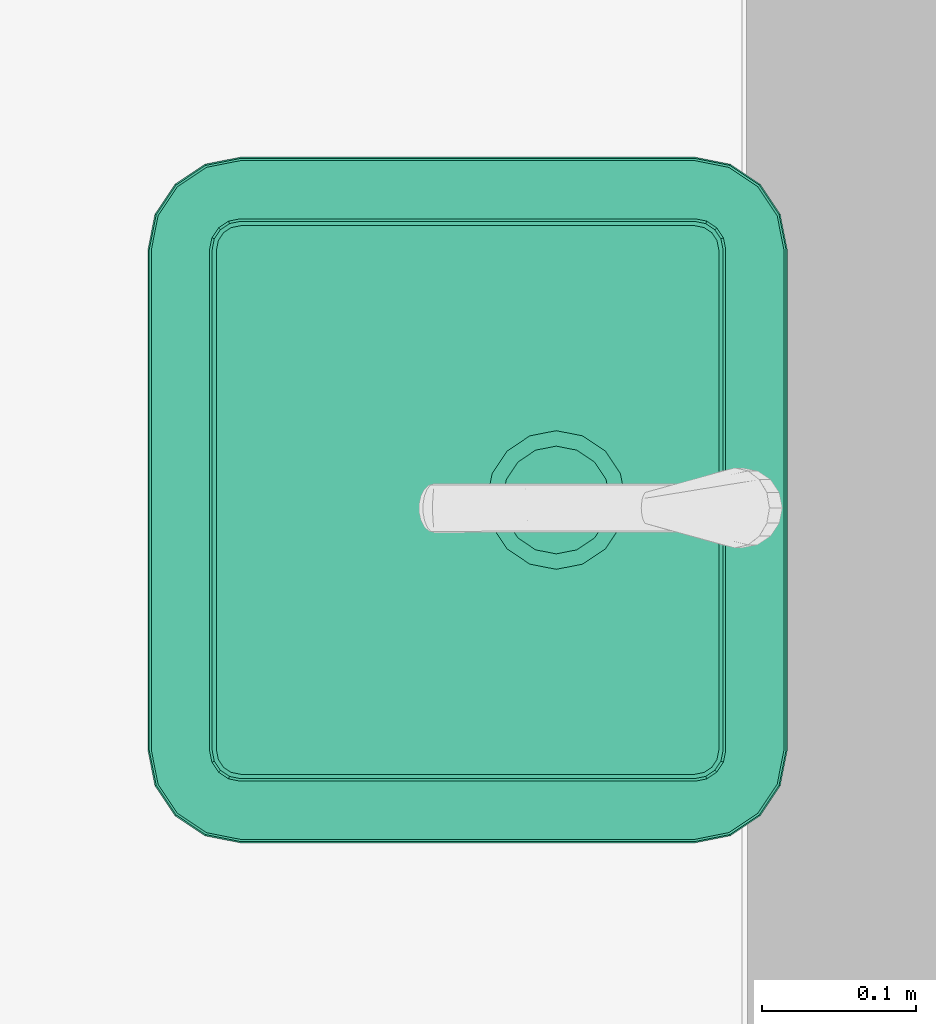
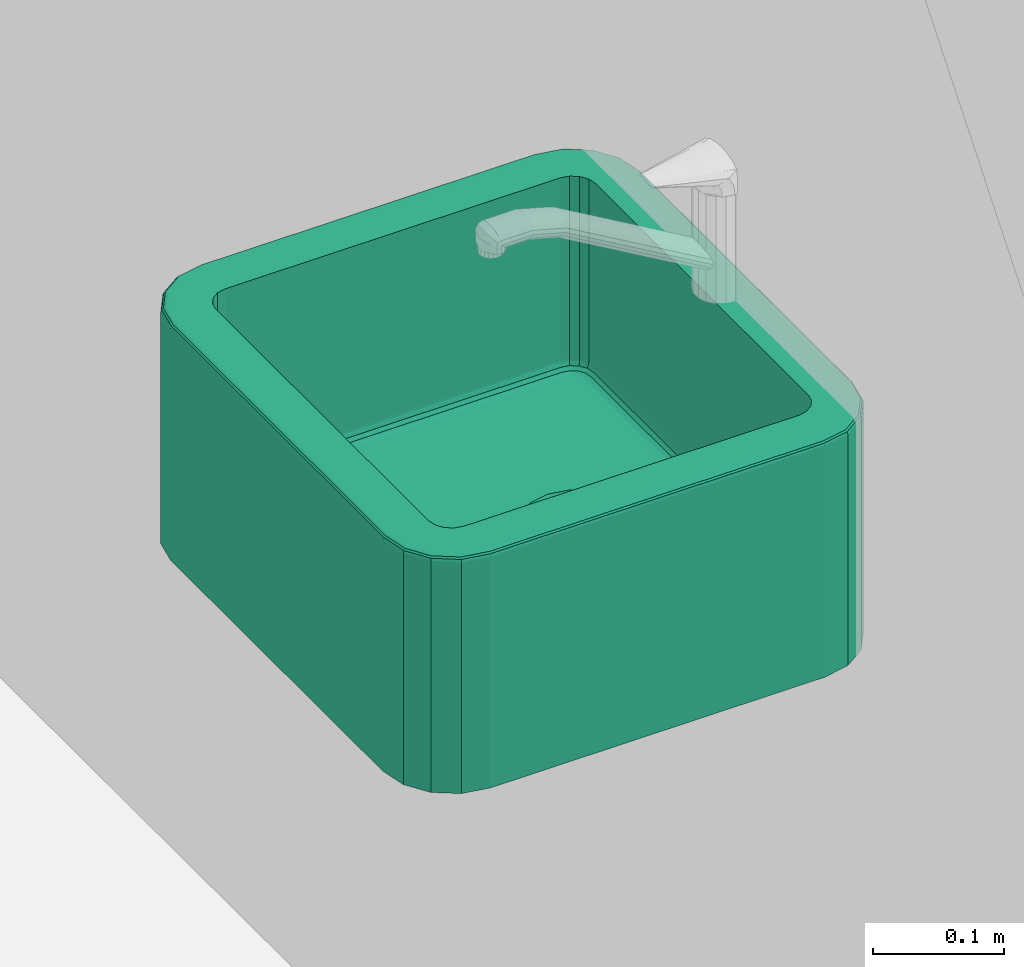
# One storey, part 83 of 127: 1 flow terminal.
"""IFC2X3 building model written with IfcOpenShell, lengths in millimetres."""

from ifc_helpers import new_model, entity, si_unit, converted_unit, derived_unit, money_unit, direction, frame, origin_with_axes, place, context, subcontext, project, spatial, faceted_brep, source, transform, mapped, type_object, element, save


model = new_model("IFC2X3")

# Units and contexts
model_context = context("Model", 3, precision=1e-05, world=origin_with_axes(), true_north=direction((0.0, 1.0)))
body_context = subcontext(model_context, "Body", "Model", "MODEL_VIEW")
ifc_project = project(units=[si_unit("LENGTHUNIT", "METRE", prefix="MILLI"), si_unit("AREAUNIT", "SQUARE_METRE"), si_unit("VOLUMEUNIT", "CUBIC_METRE"), converted_unit("PLANEANGLEUNIT", "DEGREE", entity("IfcPlaneAngleMeasure", 0.0174532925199), si_unit("PLANEANGLEUNIT", "RADIAN"), dimensions=[0, 0, 0, 0, 0, 0, 0]), si_unit("SOLIDANGLEUNIT", "STERADIAN"), money_unit("EUR"), converted_unit("TIMEUNIT", "Year", entity("IfcTimeMeasure", 31556926.0), si_unit("TIMEUNIT", "SECOND"), dimensions=[0, 0, 1, 0, 0, 0, 0]), si_unit("MASSUNIT", "GRAM", prefix="KILO"), si_unit("THERMODYNAMICTEMPERATUREUNIT", "DEGREE_CELSIUS"), si_unit("LUMINOUSINTENSITYUNIT", "LUMEN"), si_unit("ENERGYUNIT", "JOULE", prefix="MEGA"), derived_unit("THERMALCONDUCTANCEUNIT", [(si_unit("POWERUNIT", "WATT"), 1), (si_unit("LENGTHUNIT", "METRE"), -1), (si_unit("THERMODYNAMICTEMPERATUREUNIT", "KELVIN"), -1)]), derived_unit("SPECIFICHEATCAPACITYUNIT", [(si_unit("ENERGYUNIT", "JOULE"), 1), (si_unit("MASSUNIT", "GRAM", prefix="KILO"), -1), (si_unit("THERMODYNAMICTEMPERATUREUNIT", "KELVIN"), -1)]), derived_unit("MASSDENSITYUNIT", [(si_unit("MASSUNIT", "GRAM", prefix="KILO"), 1), (si_unit("VOLUMEUNIT", "CUBIC_METRE"), -1)])], contexts=[model_context])

# Site, building, storey
site_placement = place(None, origin_with_axes())
site = spatial("IfcSite", under=ifc_project, at=site_placement, Name="Site", CompositionType="ELEMENT")
building_placement = place(site_placement, origin_with_axes())
building = spatial("IfcBuilding", under=site, at=building_placement, Name="Building", CompositionType="ELEMENT")
storey_placement = place(building_placement, origin_with_axes())
storey = spatial("IfcBuildingStorey", under=building, at=storey_placement, Name="1 KORRUS", CompositionType="ELEMENT", Elevation=0.0)

# Flow terminal
sanitary_terminal_type = type_object("IfcSanitaryTerminalType", Name="Sink Belfast 22", PredefinedType="NOTDEFINED")
shared_shape = source(origin_with_axes(), body_context, "Body", "Brep", [
    faceted_brep([(21.1783900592, 393.821609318, 899.999999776), (9.27712238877, 376.010103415, 899.999999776), (4.99999698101, 354.50754327, 899.999999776), (4.99999698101, 60.4924569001, 899.999999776), (9.27712239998, 38.9898958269, 899.999999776), (21.1783900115, 21.1783900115, 899.999999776), (38.9898958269, 9.27712239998, 899.999999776), (60.4924569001, 4.99999698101, 899.999999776), (384.507543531, 4.99999698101, 899.999999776), (406.010103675, 9.27712238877, 899.999999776), (423.821609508, 21.1783900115, 899.999999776), (435.722877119, 38.9898958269, 899.999999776), (440.000002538, 60.4924569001, 899.999999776), (440.000002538, 354.50754327, 899.999999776), (435.72287713, 376.010103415, 899.999999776), (423.82160946, 393.821609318, 899.999999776), (406.010103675, 405.722877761, 899.999999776), (384.507543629, 410.000002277, 899.999999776), (222.499999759, 410.000002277, 899.999999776), (60.4924568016, 410.000002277, 899.999999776), (38.9898958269, 405.72287775, 899.999999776), (399.142135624, 369.142135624, 900.0), (403.47759065, 362.653668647, 900.0), (405.0, 355.0, 900.0), (405.0, 60.0, 900.0), (403.47759065, 52.3463313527, 900.0), (399.142135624, 45.8578643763, 900.0), (392.653668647, 41.5224093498, 900.0), (385.0, 40.0, 900.0), (60.0, 40.0, 900.0), (52.3463313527, 41.5224093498, 900.0), (45.8578643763, 45.8578643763, 900.0), (41.5224093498, 52.3463313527, 900.0), (40.0, 60.0, 900.0), (40.0, 355.0, 900.0), (41.5224093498, 362.653668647, 900.0), (45.8578643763, 369.142135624, 900.0), (52.3463313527, 373.47759065, 900.0), (60.0, 375.0, 900.0), (222.5, 375.0, 900.0), (385.0, 375.0, 900.0), (392.653668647, 373.47759065, 900.0), (20.4751302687, 394.524869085, 899.903926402), (8.3582692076, 376.390704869, 899.903926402), (4.02454764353, 354.60361665, 899.903926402), (4.02454764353, 60.396383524, 899.903926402), (8.35826921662, 38.6092943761, 899.903926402), (20.4751302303, 20.4751302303, 899.903926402), (38.6092943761, 8.35826921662, 899.903926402), (60.396383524, 4.02454764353, 899.903926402), (384.603616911, 4.02454764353, 899.903926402), (406.390705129, 8.3582692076, 899.903926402), (424.524869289, 20.4751302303, 899.903926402), (436.641730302, 38.6092943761, 899.903926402), (440.975451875, 60.396383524, 899.903926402), (440.975451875, 354.60361665, 899.903926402), (436.641730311, 376.390704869, 899.903926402), (424.52486925, 394.524869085, 899.903926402), (406.390705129, 406.64173095, 899.903926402), (384.60361699, 410.975451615, 899.903926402), (222.499999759, 410.975451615, 899.903926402), (60.3963834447, 410.975451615, 899.903926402), (38.6092943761, 406.641730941, 899.903926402), (399.142135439, 369.142135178, 730.0), (403.477591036, 362.653668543, 730.0), (404.999999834, 355.00000002, 730.0), (404.999999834, 60.0000000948, 730.0), (403.477591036, 52.3463315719, 730.0), (399.142135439, 45.8578640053, 730.0), (392.653668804, 41.5224093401, 730.0), (385.000000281, 39.9999996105, 730.0), (60.0000000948, 39.9999996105, 730.0), (52.3463315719, 41.5224093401, 730.0), (45.8578640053, 45.8578640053, 730.0), (41.5224093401, 52.3463315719, 730.0), (39.9999996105, 60.0000000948, 730.0), (39.9999996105, 355.00000002, 730.0), (41.5224093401, 362.653668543, 730.0), (45.8578640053, 369.142135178, 730.0), (52.3463315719, 373.477590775, 730.0), (60.0000000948, 374.999999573, 730.0), (222.499999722, 374.999999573, 730.0), (385.000000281, 374.999999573, 730.0), (392.653668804, 373.477590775, 730.0), (19.175673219, 395.824326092, 899.157348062), (6.66044678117, 377.093965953, 899.157348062), (2.22214896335, 354.781137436, 899.157348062), (2.22214896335, 60.2188627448, 899.157348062), (6.66044678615, 37.9060332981, 899.157348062), (19.1756731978, 19.1756731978, 899.157348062), (37.9060332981, 6.66044678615, 899.157348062), (60.2188627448, 2.22214896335, 899.157348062), (384.781137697, 2.22214896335, 899.157348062), (407.093966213, 6.66044678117, 899.157348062), (425.824326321, 19.1756731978, 899.157348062), (438.339552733, 37.9060332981, 899.157348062), (442.777850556, 60.2188627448, 899.157348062), (442.777850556, 354.781137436, 899.157348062), (438.339552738, 377.093965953, 899.157348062), (425.8243263, 395.824326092, 899.157348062), (407.093966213, 408.339553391, 899.157348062), (384.781137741, 412.777850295, 899.157348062), (222.499999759, 412.777850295, 899.157348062), (60.2188627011, 412.777850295, 899.157348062), (37.9060332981, 408.339553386, 899.157348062), (399.003605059, 369.003604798, 728.04909678), (403.296592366, 362.578696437, 728.04909678), (404.807852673, 354.981075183, 728.04909678), (404.807852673, 60.0189249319, 728.04909678), (403.296592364, 52.4213036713, 728.04909678), (399.003605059, 45.9963943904, 728.04909678), (392.578696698, 41.7034080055, 728.04909678), (384.981075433, 40.1921467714, 728.04909678), (60.0189249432, 40.1921467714, 728.04909678), (52.4213036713, 41.7034080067, 728.04909678), (45.9963943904, 45.9963943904, 728.04909678), (41.7034080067, 52.4213036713, 728.04909678), (40.1921467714, 60.0189249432, 728.04909678), (40.1921467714, 354.981075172, 728.04909678), (41.7034080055, 362.578696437, 728.04909678), (45.9963943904, 369.003604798, 728.04909678), (52.4213036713, 373.296592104, 728.04909678), (60.0189249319, 374.807852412, 728.04909678), (222.499999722, 374.807852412, 728.04909678), (384.981075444, 374.807852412, 728.04909678), (392.578696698, 373.296592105, 728.04909678), (18.1811110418, 396.818888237, 897.777851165), (5.36098869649, 377.632219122, 897.777851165), (0.842651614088, 354.917006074, 897.777851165), (0.842651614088, 60.0829941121, 897.777851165), (5.36098869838, 37.3677801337, 897.777851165), (18.1811110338, 18.1811110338, 897.777851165), (37.3677801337, 5.36098869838, 897.777851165), (60.0829941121, 0.842651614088, 897.777851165), (384.917006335, 0.842651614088, 897.777851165), (407.632219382, 5.36098869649, 897.777851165), (426.818888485, 18.1811110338, 897.777851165), (439.639010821, 37.3677801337, 897.777851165), (444.157347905, 60.0829941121, 897.777851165), (444.157347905, 354.917006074, 897.777851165), (439.639010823, 377.632219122, 897.777851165), (426.818888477, 396.818888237, 897.777851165), (407.632219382, 409.639011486, 897.777851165), (384.917006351, 414.157347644, 897.777851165), (222.499999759, 414.157347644, 897.777851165), (60.0829940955, 414.157347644, 897.777851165), (37.3677801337, 409.639011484, 897.777851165), (397.927098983, 367.927098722, 724.44429767), (401.890069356, 361.996095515, 724.44429767), (403.314695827, 354.83401212, 724.44429767), (403.314695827, 60.1659879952, 724.44429767), (401.890069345, 53.0039045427, 724.44429767), (397.927098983, 47.0729005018, 724.44429767), (391.996095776, 43.1099309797, 724.44429767), (384.834012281, 41.6853036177, 724.44429767), (60.1659880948, 41.6853036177, 724.44429767), (53.0039045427, 43.1099309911, 724.44429767), (47.0729005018, 47.0729005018, 724.44429767), (43.1099309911, 53.0039045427, 724.44429767), (41.6853036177, 60.1659880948, 724.44429767), (41.6853036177, 354.83401202, 724.44429767), (43.1099309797, 361.996095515, 724.44429767), (47.0729005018, 367.927098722, 724.44429767), (53.0039045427, 371.890069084, 724.44429767), (60.1659879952, 373.314695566, 724.44429767), (222.499999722, 373.314695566, 724.44429767), (384.834012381, 373.314695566, 724.44429767), (391.996095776, 371.890069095, 724.44429767), (17.6428579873, 397.357141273, 895.97545161), (4.65772720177, 377.923519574, 895.97545161), (0.0960731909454, 354.990537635, 895.97545161), (0.0960731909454, 60.009462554, 895.97545161), (4.65772720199, 37.0764796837, 895.97545161), (17.6428579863, 17.6428579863, 895.97545161), (37.0764796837, 4.65772720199, 895.97545161), (60.009462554, 0.0960731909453, 895.97545161), (384.990537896, 0.0960731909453, 895.97545161), (407.923519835, 4.65772720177, 895.97545161), (427.357141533, 17.6428579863, 895.97545161), (440.342272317, 37.0764796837, 895.97545161), (444.903926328, 60.009462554, 895.97545161), (444.903926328, 354.990537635, 895.97545161), (440.342272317, 377.923519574, 895.97545161), (427.357141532, 397.357141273, 895.97545161), (407.923519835, 410.342272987, 895.97545161), (384.990537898, 414.903926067, 895.97545161), (222.499999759, 414.903926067, 895.97545161), (60.0094625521, 414.903926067, 895.97545161), (37.0764796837, 410.342272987, 895.97545161), (395.937975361, 365.9379751, 721.685303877), (399.291154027, 360.91958951, 721.685303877), (400.55570206, 354.562275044, 721.685303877), (400.55570206, 60.437725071, 721.685303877), (399.291153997, 54.0804104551, 721.685303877), (395.937975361, 49.062024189, 721.685303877), (390.919589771, 45.7088462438, 721.685303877), (384.562275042, 44.4442973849, 721.685303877), (60.4377253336, 44.4442973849, 721.685303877), (54.0804104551, 45.7088462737, 721.685303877), (49.062024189, 49.062024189, 721.685303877), (45.7088462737, 54.0804104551, 721.685303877), (44.4442973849, 60.4377253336, 721.685303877), (44.4442973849, 354.562274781, 721.685303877), (45.7088462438, 360.91958951, 721.685303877), (49.062024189, 365.9379751, 721.685303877), (54.0804104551, 369.291153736, 721.685303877), (60.437725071, 370.555701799, 721.685303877), (222.499999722, 370.555701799, 721.685303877), (384.562275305, 370.555701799, 721.685303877), (390.919589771, 369.291153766, 721.685303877), (17.5735927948, 397.426406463, 895.0), (4.56722786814, 377.961005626, 895.0), (-3.89516363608e-07, 355.000000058, 895.0), (-3.89516363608e-07, 60.000000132, 895.0), (4.56722786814, 37.0389936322, 895.0), (17.5735927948, 17.5735927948, 895.0), (37.0389936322, 4.56722786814, 895.0), (60.000000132, -3.89516419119e-07, 895.0), (385.000000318, -3.89516419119e-07, 895.0), (407.961005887, 4.56722786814, 895.0), (427.426406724, 17.5735927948, 895.0), (440.432771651, 37.0389936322, 895.0), (444.999999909, 60.000000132, 895.0), (444.999999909, 355.000000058, 895.0), (440.432771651, 377.961005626, 895.0), (427.426406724, 397.426406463, 895.0), (407.961005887, 410.432772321, 895.0), (385.000000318, 414.999999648, 895.0), (222.499999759, 414.999999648, 895.0), (60.000000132, 414.999999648, 895.0), (37.0389936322, 410.432772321, 895.0), (393.339059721, 363.33905946, 720.192147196), (395.895507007, 359.513066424, 720.192147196), (396.950902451, 354.207233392, 720.192147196), (396.950902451, 60.7927667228, 720.192147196), (395.895506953, 55.4869334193, 720.192147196), (393.339059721, 51.6609399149, 720.192147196), (389.513066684, 49.104493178, 720.192147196), (384.207233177, 48.0490969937, 720.192147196), (60.7927671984, 48.0490969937, 720.192147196), (55.4869334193, 49.1044932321, 720.192147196), (51.6609399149, 51.6609399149, 720.192147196), (49.1044932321, 55.4869334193, 720.192147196), (48.0490969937, 60.7927671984, 720.192147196), (48.0490969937, 354.207232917, 720.192147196), (49.104493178, 359.513066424, 720.192147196), (51.6609399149, 363.33905946, 720.192147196), (55.4869334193, 365.895506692, 720.192147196), (60.7927667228, 366.95090219, 720.192147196), (222.499999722, 366.95090219, 720.192147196), (384.207233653, 366.95090219, 720.192147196), (389.513066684, 365.895506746, 720.192147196), (17.5735931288, 397.426406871, 680.0), (4.56722804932, 377.961005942, 680.0), (0.0, 355.0, 680.0), (0.0, 60.0, 680.0), (4.56722804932, 37.0389940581, 680.0), (17.5735931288, 17.5735931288, 680.0), (37.0389940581, 4.56722804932, 680.0), (60.0, 0.0, 680.0), (385.0, 0.0, 680.0), (407.961005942, 4.56722804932, 680.0), (427.426406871, 17.5735931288, 680.0), (440.432771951, 37.0389940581, 680.0), (445.0, 60.0, 680.0), (445.0, 355.0, 680.0), (440.432771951, 377.961005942, 680.0), (427.426406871, 397.426406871, 680.0), (407.961005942, 410.432771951, 680.0), (385.0, 415.0, 680.0), (222.5, 415.0, 680.0), (60.0, 415.0, 680.0), (37.0389940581, 410.432771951, 680.0), (391.932540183, 361.932539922, 720.000000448), (394.057800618, 358.751863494, 720.000000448), (395.000003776, 354.015086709, 720.000000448), (395.000003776, 60.9849134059, 720.000000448), (394.057800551, 56.2481362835, 720.000000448), (391.932540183, 53.0674594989, 720.000000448), (388.751863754, 50.9421995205, 720.000000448), (384.015086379, 49.9999956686, 720.000000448), (60.9849139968, 49.9999956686, 720.000000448), (56.2481362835, 50.9421995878, 720.000000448), (53.0674594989, 53.0674594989, 720.000000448), (50.9421995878, 56.2481362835, 720.000000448), (49.9999956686, 60.9849139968, 720.000000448), (49.9999956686, 354.015086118, 720.000000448), (50.9421995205, 358.751863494, 720.000000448), (53.0674594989, 361.932539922, 720.000000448), (56.2481362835, 364.05780029, 720.000000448), (60.9849134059, 365.000003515, 720.000000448), (222.499999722, 365.000003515, 720.000000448), (384.01508697, 365.000003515, 720.000000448), (388.751863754, 364.057800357, 720.000000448), (267.5, 265.0, 720.0), (264.074578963, 247.779245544, 720.0), (254.319805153, 233.180194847, 720.0), (239.720754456, 223.425421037, 720.0), (222.5, 220.0, 720.0), (205.279245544, 223.425421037, 720.0), (190.680194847, 233.180194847, 720.0), (180.925421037, 247.779245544, 720.0), (177.5, 265.0, 720.0), (180.925421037, 282.220754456, 720.0), (190.680194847, 296.819805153, 720.0), (205.279245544, 306.574578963, 720.0), (222.5, 310.0, 720.0), (239.720754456, 306.574578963, 720.0), (254.319805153, 296.819805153, 720.0), (264.074578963, 282.220754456, 720.0), (257.5, 265.0, 710.0), (254.835783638, 251.606079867, 710.0), (247.248737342, 240.251262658, 710.0), (235.893920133, 232.664216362, 710.0), (222.5, 230.0, 710.0), (209.106079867, 232.664216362, 710.0), (197.751262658, 240.251262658, 710.0), (190.164216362, 251.606079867, 710.0), (187.5, 265.0, 710.0), (190.164216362, 278.393920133, 710.0), (197.751262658, 289.748737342, 710.0), (209.106079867, 297.335783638, 710.0), (222.5, 300.0, 710.0), (235.893920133, 297.335783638, 710.0), (247.248737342, 289.748737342, 710.0), (254.835783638, 278.393920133, 710.0)], [[[0, 1, 2, 3, 4, 5, 6, 7, 8, 9, 10, 11, 12, 13, 14, 15, 16, 17, 18, 19, 20], [21, 22, 23, 24, 25, 26, 27, 28, 29, 30, 31, 32, 33, 34, 35, 36, 37, 38, 39, 40, 41]], [[0, 42, 43, 1]], [[1, 43, 44, 2]], [[2, 44, 45, 3]], [[3, 45, 46, 4]], [[4, 46, 47, 5]], [[5, 47, 48, 6]], [[6, 48, 49, 7]], [[7, 49, 50, 8]], [[8, 50, 51, 9]], [[9, 51, 52, 10]], [[10, 52, 53, 11]], [[11, 53, 54, 12]], [[12, 54, 55, 13]], [[13, 55, 56, 14]], [[14, 56, 57, 15]], [[15, 57, 58, 16]], [[16, 58, 59, 17]], [[17, 59, 60, 18]], [[18, 60, 61, 19]], [[19, 61, 62, 20]], [[20, 62, 42, 0]], [[22, 21, 63, 64]], [[23, 22, 64, 65]], [[24, 23, 65, 66]], [[25, 24, 66, 67]], [[26, 25, 67, 68]], [[27, 26, 68, 69]], [[28, 27, 69, 70]], [[29, 28, 70, 71]], [[30, 29, 71, 72]], [[31, 30, 72, 73]], [[32, 31, 73, 74]], [[33, 32, 74, 75]], [[34, 33, 75, 76]], [[35, 34, 76, 77]], [[36, 35, 77, 78]], [[37, 36, 78, 79]], [[38, 37, 79, 80]], [[39, 38, 80, 81]], [[40, 39, 81, 82]], [[41, 40, 82, 83]], [[21, 41, 83, 63]], [[42, 84, 85, 43]], [[43, 85, 86, 44]], [[44, 86, 87, 45]], [[45, 87, 88, 46]], [[46, 88, 89, 47]], [[47, 89, 90, 48]], [[48, 90, 91, 49]], [[49, 91, 92, 50]], [[50, 92, 93, 51]], [[51, 93, 94, 52]], [[52, 94, 95, 53]], [[53, 95, 96, 54]], [[54, 96, 97, 55]], [[55, 97, 98, 56]], [[56, 98, 99, 57]], [[57, 99, 100, 58]], [[58, 100, 101, 59]], [[59, 101, 102, 60]], [[60, 102, 103, 61]], [[61, 103, 104, 62]], [[62, 104, 84, 42]], [[64, 63, 105, 106]], [[65, 64, 106, 107]], [[66, 65, 107, 108]], [[67, 66, 108, 109]], [[68, 67, 109, 110]], [[69, 68, 110, 111]], [[70, 69, 111, 112]], [[71, 70, 112, 113]], [[72, 71, 113, 114]], [[73, 72, 114, 115]], [[74, 73, 115, 116]], [[75, 74, 116, 117]], [[76, 75, 117, 118]], [[77, 76, 118, 119]], [[78, 77, 119, 120]], [[79, 78, 120, 121]], [[80, 79, 121, 122]], [[81, 80, 122, 123]], [[82, 81, 123, 124]], [[83, 82, 124, 125]], [[63, 83, 125, 105]], [[84, 126, 127, 85]], [[85, 127, 128, 86]], [[86, 128, 129, 87]], [[87, 129, 130, 88]], [[88, 130, 131, 89]], [[89, 131, 132, 90]], [[90, 132, 133, 91]], [[91, 133, 134, 92]], [[92, 134, 135, 93]], [[93, 135, 136, 94]], [[94, 136, 137, 95]], [[95, 137, 138, 96]], [[96, 138, 139, 97]], [[97, 139, 140, 98]], [[98, 140, 141, 99]], [[99, 141, 142, 100]], [[100, 142, 143, 101]], [[101, 143, 144, 102]], [[102, 144, 145, 103]], [[103, 145, 146, 104]], [[104, 146, 126, 84]], [[106, 105, 147, 148]], [[107, 106, 148, 149]], [[108, 107, 149, 150]], [[109, 108, 150, 151]], [[110, 109, 151, 152]], [[111, 110, 152, 153]], [[112, 111, 153, 154]], [[113, 112, 154, 155]], [[114, 113, 155, 156]], [[115, 114, 156, 157]], [[116, 115, 157, 158]], [[117, 116, 158, 159]], [[118, 117, 159, 160]], [[119, 118, 160, 161]], [[120, 119, 161, 162]], [[121, 120, 162, 163]], [[122, 121, 163, 164]], [[123, 122, 164, 165]], [[124, 123, 165, 166]], [[125, 124, 166, 167]], [[105, 125, 167, 147]], [[126, 168, 169, 127]], [[127, 169, 170, 128]], [[128, 170, 171, 129]], [[129, 171, 172, 130]], [[130, 172, 173, 131]], [[131, 173, 174, 132]], [[132, 174, 175, 133]], [[133, 175, 176, 134]], [[134, 176, 177, 135]], [[135, 177, 178, 136]], [[136, 178, 179, 137]], [[137, 179, 180, 138]], [[138, 180, 181, 139]], [[139, 181, 182, 140]], [[140, 182, 183, 141]], [[141, 183, 184, 142]], [[142, 184, 185, 143]], [[143, 185, 186, 144]], [[144, 186, 187, 145]], [[145, 187, 188, 146]], [[146, 188, 168, 126]], [[148, 147, 189, 190]], [[149, 148, 190, 191]], [[150, 149, 191, 192]], [[151, 150, 192, 193]], [[152, 151, 193, 194]], [[153, 152, 194, 195]], [[154, 153, 195, 196]], [[155, 154, 196, 197]], [[156, 155, 197, 198]], [[157, 156, 198, 199]], [[158, 157, 199, 200]], [[159, 158, 200, 201]], [[160, 159, 201, 202]], [[161, 160, 202, 203]], [[162, 161, 203, 204]], [[163, 162, 204, 205]], [[164, 163, 205, 206]], [[165, 164, 206, 207]], [[166, 165, 207, 208]], [[167, 166, 208, 209]], [[147, 167, 209, 189]], [[168, 210, 211, 169]], [[169, 211, 212, 170]], [[170, 212, 213, 171]], [[171, 213, 214, 172]], [[172, 214, 215, 173]], [[173, 215, 216, 174]], [[174, 216, 217, 175]], [[175, 217, 218, 176]], [[176, 218, 219, 177]], [[177, 219, 220, 178]], [[178, 220, 221, 179]], [[179, 221, 222, 180]], [[180, 222, 223, 181]], [[181, 223, 224, 182]], [[182, 224, 225, 183]], [[183, 225, 226, 184]], [[184, 226, 227, 185]], [[185, 227, 228, 186]], [[186, 228, 229, 187]], [[187, 229, 230, 188]], [[188, 230, 210, 168]], [[190, 189, 231, 232]], [[191, 190, 232, 233]], [[192, 191, 233, 234]], [[193, 192, 234, 235]], [[194, 193, 235, 236]], [[195, 194, 236, 237]], [[196, 195, 237, 238]], [[197, 196, 238, 239]], [[198, 197, 239, 240]], [[199, 198, 240, 241]], [[200, 199, 241, 242]], [[201, 200, 242, 243]], [[202, 201, 243, 244]], [[203, 202, 244, 245]], [[204, 203, 245, 246]], [[205, 204, 246, 247]], [[206, 205, 247, 248]], [[207, 206, 248, 249]], [[208, 207, 249, 250]], [[209, 208, 250, 251]], [[189, 209, 251, 231]], [[210, 252, 253, 211]], [[211, 253, 254, 212]], [[212, 254, 255, 213]], [[213, 255, 256, 214]], [[214, 256, 257, 215]], [[215, 257, 258, 216]], [[216, 258, 259, 217]], [[217, 259, 260, 218]], [[218, 260, 261, 219]], [[219, 261, 262, 220]], [[220, 262, 263, 221]], [[221, 263, 264, 222]], [[222, 264, 265, 223]], [[223, 265, 266, 224]], [[224, 266, 267, 225]], [[225, 267, 268, 226]], [[226, 268, 269, 227]], [[227, 269, 270, 228]], [[228, 270, 271, 229]], [[229, 271, 272, 230]], [[230, 272, 252, 210]], [[232, 231, 273, 274]], [[233, 232, 274, 275]], [[234, 233, 275, 276]], [[235, 234, 276, 277]], [[236, 235, 277, 278]], [[237, 236, 278, 279]], [[238, 237, 279, 280]], [[239, 238, 280, 281]], [[240, 239, 281, 282]], [[241, 240, 282, 283]], [[242, 241, 283, 284]], [[243, 242, 284, 285]], [[244, 243, 285, 286]], [[245, 244, 286, 287]], [[246, 245, 287, 288]], [[247, 246, 288, 289]], [[248, 247, 289, 290]], [[249, 248, 290, 291]], [[250, 249, 291, 292]], [[251, 250, 292, 293]], [[231, 251, 293, 273]], [[257, 256, 255, 254, 253, 252, 272, 271, 270, 269, 268, 267, 266, 265, 264, 263, 262, 261, 260, 259, 258]], [[287, 286, 285, 284, 283, 282, 281, 280, 279, 278, 277, 276, 275, 274, 273, 293, 292, 291, 290, 289, 288], [294, 295, 296, 297, 298, 299, 300, 301, 302, 303, 304, 305, 306, 307, 308, 309]], [[295, 294, 310, 311]], [[296, 295, 311, 312]], [[297, 296, 312, 313]], [[298, 297, 313, 314]], [[299, 298, 314, 315]], [[300, 299, 315, 316]], [[301, 300, 316, 317]], [[302, 301, 317, 318]], [[303, 302, 318, 319]], [[304, 303, 319, 320]], [[305, 304, 320, 321]], [[306, 305, 321, 322]], [[307, 306, 322, 323]], [[308, 307, 323, 324]], [[309, 308, 324, 325]], [[294, 309, 325, 310]], [[321, 320, 319, 318, 317, 316, 315, 314, 313, 312, 311, 310, 325, 324, 323, 322]]]),
    faceted_brep([(254.835783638, 251.606079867, 710.0), (247.248737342, 240.251262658, 710.0), (235.893920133, 232.664216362, 710.0), (222.5, 230.0, 710.0), (209.106079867, 232.664216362, 710.0), (197.751262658, 240.251262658, 710.0), (190.164216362, 251.606079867, 710.0), (187.5, 265.0, 710.0), (190.164216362, 278.393920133, 710.0), (197.751262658, 289.748737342, 710.0), (209.106079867, 297.335783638, 710.0), (222.5, 300.0, 710.0), (235.893920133, 297.335783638, 710.0), (247.248737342, 289.748737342, 710.0), (254.835783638, 278.393920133, 710.0), (257.5, 265.0, 710.0), (254.835783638, 251.606079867, 720.0), (247.248737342, 240.251262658, 720.0), (235.893920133, 232.664216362, 720.0), (222.5, 230.0, 720.0), (209.106079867, 232.664216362, 720.0), (197.751262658, 240.251262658, 720.0), (190.164216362, 251.606079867, 720.0), (187.5, 265.0, 720.0), (190.164216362, 278.393920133, 720.0), (197.751262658, 289.748737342, 720.0), (209.106079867, 297.335783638, 720.0), (222.5, 300.0, 720.0), (235.893920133, 297.335783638, 720.0), (247.248737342, 289.748737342, 720.0), (254.835783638, 278.393920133, 720.0), (257.5, 265.0, 720.0)], [[[0, 1, 2, 3, 4, 5, 6, 7, 8, 9, 10, 11, 12, 13, 14, 15]], [[1, 0, 16, 17]], [[2, 1, 17, 18]], [[3, 2, 18, 19]], [[4, 3, 19, 20]], [[5, 4, 20, 21]], [[6, 5, 21, 22]], [[7, 6, 22, 23]], [[8, 7, 23, 24]], [[9, 8, 24, 25]], [[10, 9, 25, 26]], [[11, 10, 26, 27]], [[12, 11, 27, 28]], [[13, 12, 28, 29]], [[14, 13, 29, 30]], [[15, 14, 30, 31]], [[0, 15, 31, 16]], [[16, 31, 30, 29, 28, 27, 26, 25, 24, 23, 22, 21, 20, 19, 18, 17]]]),
])
flow_terminal_placement = place(storey_placement, frame((48618.5107869, 44261.0928304, 129.888486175), z_axis=(0.0, 0.0, 1.0), x_axis=(0.0, -1.0, 0.0)))
element("IfcFlowTerminal", 1, at=flow_terminal_placement, inside=storey, type_object=sanitary_terminal_type, Name="Valamu", context=body_context, shape_type="MappedRepresentation", body=[
    mapped(shared_shape, transform((0.0, 0.0, 0.0))),
])

save(model, "model.ifc")
